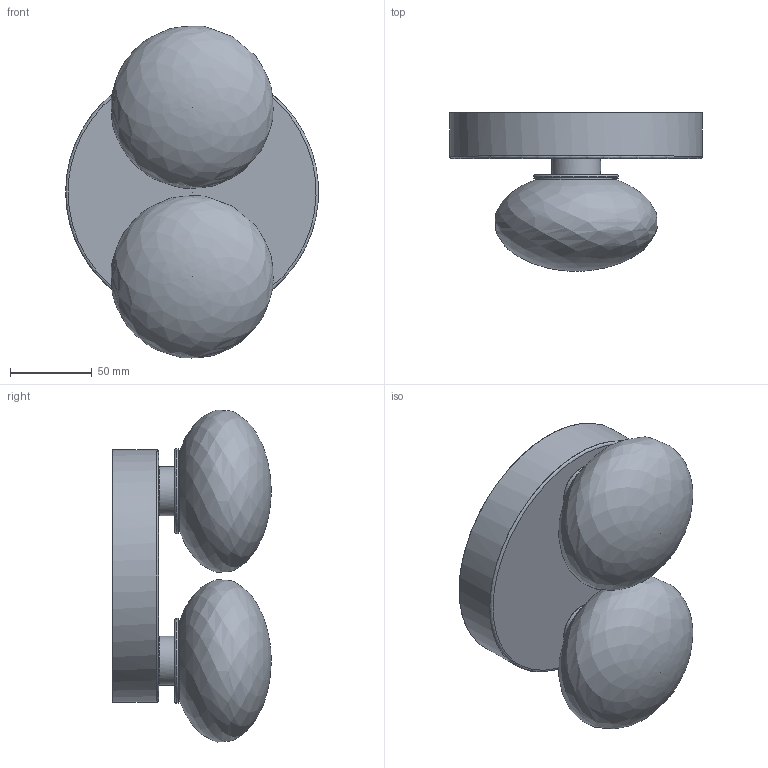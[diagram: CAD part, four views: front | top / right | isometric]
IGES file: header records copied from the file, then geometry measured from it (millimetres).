
Global section: file name: /Users/danielszollosi/Documents/SkLO/Sklo.com/3D models/WEB 3D Models/SkLO_Dot_Sconce_2_LTM03_3D.igs; native system: Rhinoceros ( Sep 24 2023 ); preprocessor: Trout Lake IGES 012 Sep 24 2023; date: 241021.083100; units: millimetre
Bounding box: 154.88 x 97.01 x 203.52 mm (x, y, z)
Surface area: 187819.6 mm2 (no closed solid volume)
Topology: 0 solids, 0 shells, 144 faces, 861 edges, 805 vertices
Faces by surface type: bspline 144
